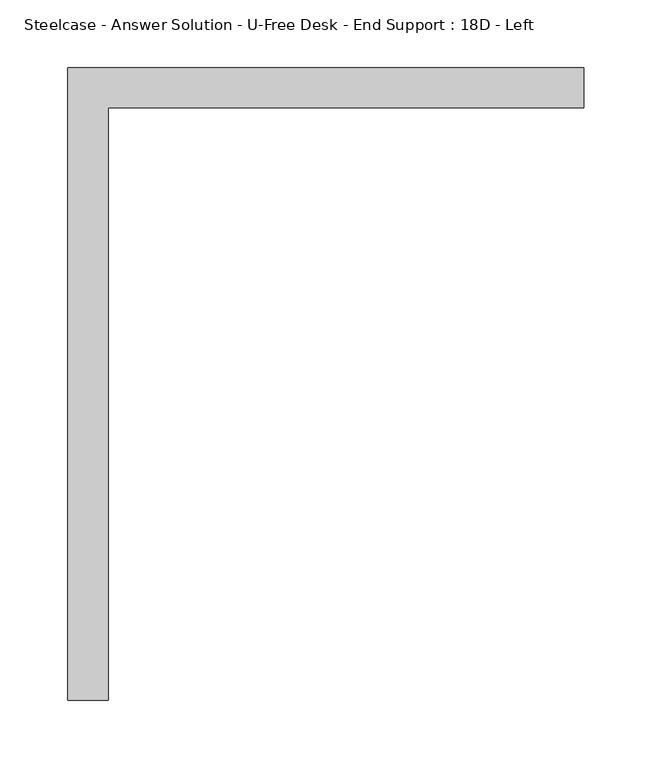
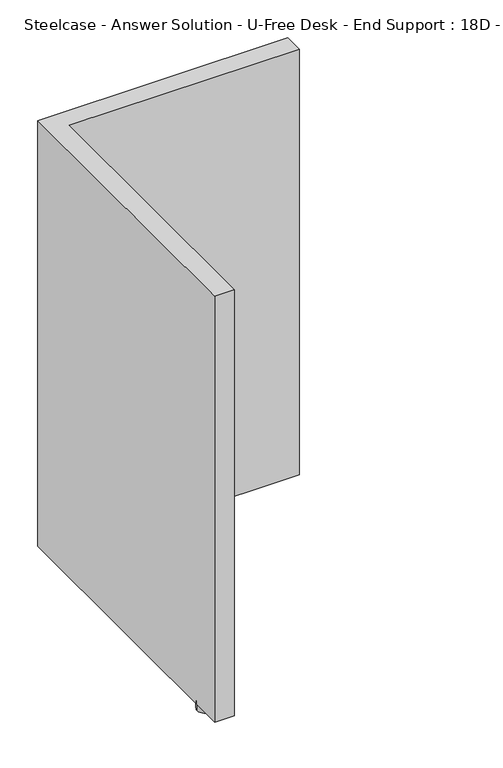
"""IFC4 building model written with IfcOpenShell, lengths in millimetres: furniture geometry, Steelcase - Answer Solution - U-Free Desk - End Support : 18D - Left."""

from ifc_helpers import new_model, si_unit, point, frame, frame_2d, origin, origin_with_axes, place, context, project, spatial, polyline, circle_curve, trimmed, segment, composite_curve, outline, extrude, source, transform, mapped, element, save


def steelcase_answer_solution_u_free_desk_end_support_18d_left_e469fbe7(model_context):
    return source(origin(), model_context, "Body", "SweptSolid", [
        extrude(outline(composite_curve([segment(trimmed(circle_curve(frame_2d((18.1392399, -418.4287813)), 12.7), [point((5.4392399, -418.4287813))], [point((30.8392399, -418.4287813))], False, "CARTESIAN"), True, "CONTINUOUS"), segment(trimmed(circle_curve(frame_2d((18.1392399, -418.4287813)), 12.7), [point((30.8392399, -418.4287813))], [point((5.4392399, -418.4287813))], False, "CARTESIAN"), True, "CONTINUOUS")], self_intersect=False)), origin_with_axes(), (0.0, 0.0, 1.0), 12.7000004),
        extrude(outline(polyline([(384.1009381, -2.0011718), (384.1009381, -31.6936406), (32.8951368, -31.6936406), (32.8951368, -468.8531718), (3.1009381, -468.8531718), (3.1009381, -2.0011718), (384.1009381, -2.0011718)])), frame((0.0, 0.0, 12.7000004), z_axis=(0.0, 0.0, 1.0), x_axis=(1.0, 0.0, 0.0)), (0.0, 0.0, 1.0), 685.8),
    ])


if __name__ == "__main__":
    model = new_model("IFC4")
    model_context = context("Model", 3, world=origin())
    ifc_project = project(units=[si_unit("LENGTHUNIT", "METRE", prefix="MILLI")], contexts=[model_context])
    site = spatial("IfcSite", under=ifc_project)
    building = spatial("IfcBuilding", under=site)
    placement = place(None, origin())
    steelcase_answer_solution_u_free_desk_end_support_18d_left_shape = steelcase_answer_solution_u_free_desk_end_support_18d_left_e469fbe7(model_context)
    element("IfcFurniture", 1, ObjectType="Steelcase - Answer Solution - U-Free Desk - End Support : 18D - Left", at=placement, inside=building, context=model_context, shape_type="MappedRepresentation", body=[
        mapped(steelcase_answer_solution_u_free_desk_end_support_18d_left_shape, transform((0.0, 0.0, 0.0), x_axis=(1.0, 0.0, 0.0), y_axis=(0.0, 1.0, 0.0), z_axis=(0.0, 0.0, 1.0))),
    ])
    save(model, "model.ifc")
